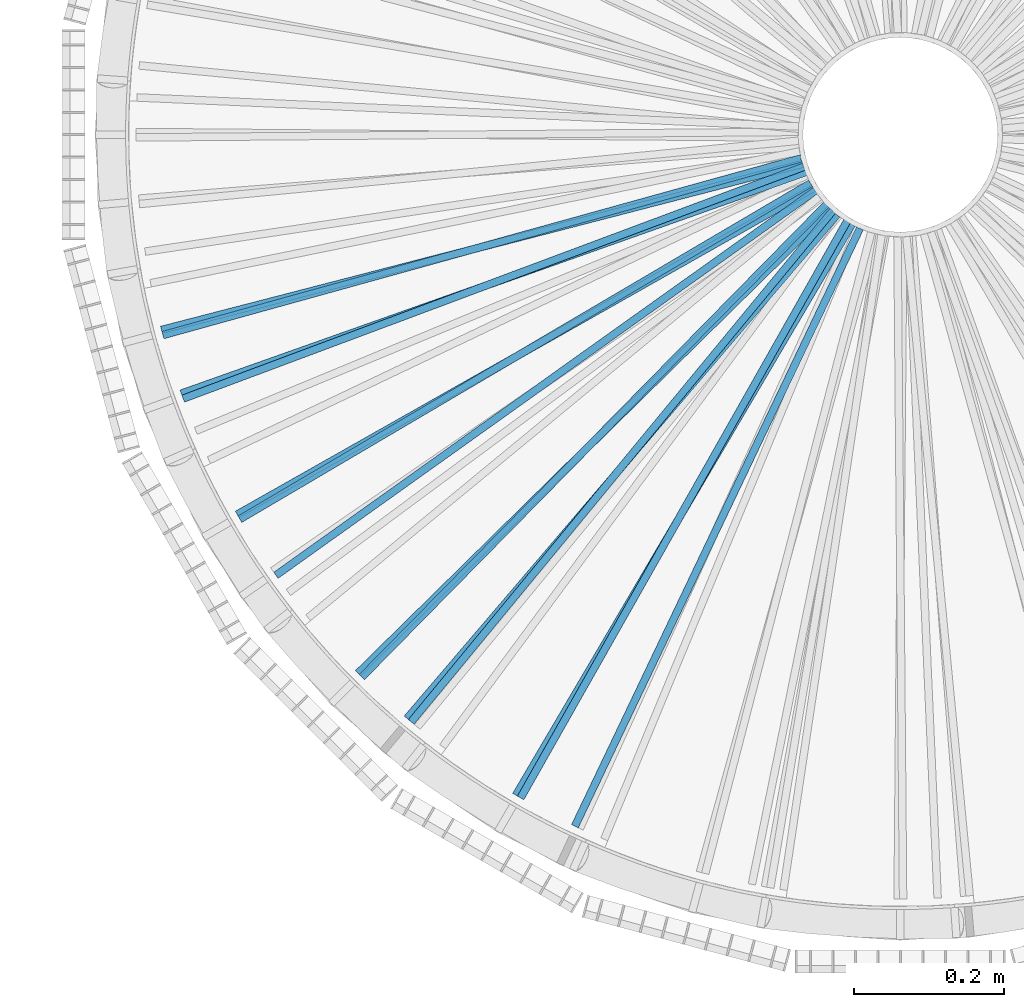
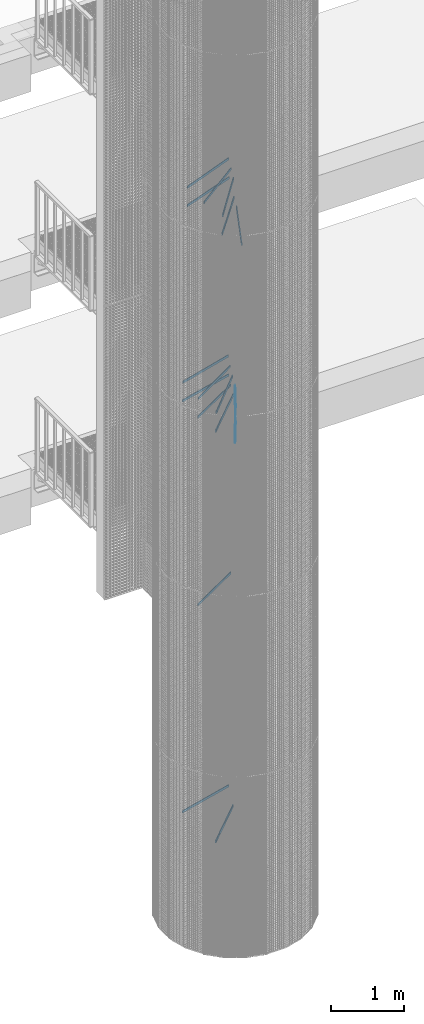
# One storey, part 389 of 1183: 17 beams, 3 elements without a shape of their own.
"""IFC2X3 building model written with IfcOpenShell, lengths in millimetres."""

import ifcopenshell
import ifcopenshell.guid

model = None  # the IFC model being written
_history = None  # IfcOwnerHistory: only IFC2X3 demands one
_inside = {}  # id of a spatial element -> (the spatial element, [elements in it])
_under = {}  # id of a project, library or spatial element -> (it, [spatial elements below it])
_declared = {}  # id of a project -> (the project, [libraries it declares])
_typed = {}  # id of a type object -> (the type object, [elements of that type])
_made_of = {}  # id of a material, layer set ... -> (it, [elements and type objects made of it])


def new_model(schema):
    """Start an empty IFC model of exactly this schema.

    Asked for "IFC4X3", IfcOpenShell would pick the latest addendum, in which some entities
    have other attributes; the version numbers below select the first issue.
    IFC2X3 requires an IfcOwnerHistory on every rooted entity: one is made here for all.
    """
    global model, _history
    if schema == "IFC4X3":
        model = ifcopenshell.file(schema_version=(4, 3, 0, 0))
    else:
        model = ifcopenshell.file(schema=schema)
    _inside.clear()
    _under.clear()
    _declared.clear()
    _typed.clear()
    _made_of.clear()
    _history = None
    if model.schema == "IFC2X3":
        org = make("IfcOrganization", Name="unknown")
        user = make(
            "IfcPersonAndOrganization",
            ThePerson=make("IfcPerson", FamilyName="unknown"),
            TheOrganization=org,
        )
        app = make(
            "IfcApplication",
            ApplicationDeveloper=org,
            Version="unknown",
            ApplicationFullName="unknown",
            ApplicationIdentifier="unknown",
        )
        _history = make(
            "IfcOwnerHistory",
            OwningUser=user,
            OwningApplication=app,
            ChangeAction="ADDED",
            CreationDate=0,
        )
    return model


def make(cls, **values):
    """One entity of the class cls with the attributes given. An attribute that is None is left unset."""
    return model.create_entity(
        cls, **{name: value for name, value in values.items() if value is not None}
    )


def rooted(cls, **values):
    """An entity with a GlobalId (a new one), such as an element, a storey or a relation."""
    return make(cls, GlobalId=ifcopenshell.guid.new(), OwnerHistory=_history, **values)


def si_unit(unit_type, name, prefix=None):
    """IfcSIUnit, for example si_unit("LENGTHUNIT", "METRE", prefix="MILLI")."""
    return make("IfcSIUnit", UnitType=unit_type, Prefix=prefix, Name=name)


def assignment(units):
    """IfcUnitAssignment: the units of a project."""
    return None if units is None else make("IfcUnitAssignment", Units=units)


def point(xyz):
    """IfcCartesianPoint."""
    return None if xyz is None else make("IfcCartesianPoint", Coordinates=xyz)


def direction(xyz):
    """IfcDirection."""
    return None if xyz is None else make("IfcDirection", DirectionRatios=xyz)


def frame(location, z_axis=None, x_axis=None):
    """IfcAxis2Placement3D, a coordinate frame: its origin and axes. An axis left out is left unset."""
    return make(
        "IfcAxis2Placement3D",
        Location=point(location),
        Axis=direction(z_axis),
        RefDirection=direction(x_axis),
    )


def frame_2d(location, x_axis=None):
    """IfcAxis2Placement2D, a coordinate frame in the plane: its origin and x axis."""
    return make(
        "IfcAxis2Placement2D", Location=point(location), RefDirection=direction(x_axis)
    )


def origin_with_axes():
    """The frame at (0, 0, 0) with the z axis (0, 0, 1) and the x axis (1, 0, 0) written out."""
    return frame((0.0, 0.0, 0.0), z_axis=(0.0, 0.0, 1.0), x_axis=(1.0, 0.0, 0.0))


def origin_2d_with_axis():
    """The frame at (0, 0) in the plane with the x axis (1, 0) written out."""
    return frame_2d((0.0, 0.0), x_axis=(1.0, 0.0))


def place(relative_to, where):
    """IfcLocalPlacement: puts the frame where relative to a parent placement (None: the world)."""
    return make(
        "IfcLocalPlacement", PlacementRelTo=relative_to, RelativePlacement=where
    )


def context(
    kind, dimensions, precision=None, world=None, true_north=None, identifier=None
):
    """IfcGeometricRepresentationContext, for example the 3D "Model" context."""
    return make(
        "IfcGeometricRepresentationContext",
        ContextIdentifier=identifier,
        ContextType=kind,
        CoordinateSpaceDimension=dimensions,
        Precision=precision,
        WorldCoordinateSystem=world,
        TrueNorth=true_north,
    )


def subcontext(parent, identifier, kind, view, scale=None):
    """IfcGeometricRepresentationSubContext, for example "Body" below "Model"."""
    return make(
        "IfcGeometricRepresentationSubContext",
        ContextIdentifier=identifier,
        ContextType=kind,
        ParentContext=parent,
        TargetScale=scale,
        TargetView=view,
    )


def project(units=None, contexts=None):
    """IfcProject with its units and contexts."""
    return rooted(
        "IfcProject",
        Name="project",
        RepresentationContexts=contexts,
        UnitsInContext=assignment(units),
    )


def spatial(cls, under=None, at=None, **own):
    """A site, building, storey or space (cls), placed at a placement, below another one or the project."""
    s = rooted(cls, ObjectPlacement=at, **own)
    if under is not None:
        _under.setdefault(under.id(), (under, []))[1].append(s)
    return s


def polyline(points):
    """IfcPolyline through the points."""
    return make("IfcPolyline", Points=[point(p) for p in points])


def profile(cls, at=None, kind="AREA", **sizes):
    """A parametric profile (cls). Its sizes go by their IFC names, for example OverallWidth=200.0."""
    return make(cls, ProfileType=kind, Position=at, **sizes)


def rectangle(**sizes):
    """IfcRectangleProfileDef."""
    return profile("IfcRectangleProfileDef", **sizes)


def outline(outer, holes=None, kind="AREA"):
    """IfcArbitraryClosedProfileDef: a profile drawn as a closed curve; with holes, ...WithVoids."""
    if holes is None:
        return make("IfcArbitraryClosedProfileDef", ProfileType=kind, OuterCurve=outer)
    return make(
        "IfcArbitraryProfileDefWithVoids",
        ProfileType=kind,
        OuterCurve=outer,
        InnerCurves=holes,
    )


def extrude(swept, where, along, depth):
    """IfcExtrudedAreaSolid: the profile swept, set in the frame where, extruded along a direction by depth."""
    return make(
        "IfcExtrudedAreaSolid",
        SweptArea=swept,
        Position=where,
        ExtrudedDirection=direction(along),
        Depth=depth,
    )


def boolean(op, a, b):
    """IfcBooleanResult of two solids."""
    return make("IfcBooleanResult", Operator=op, FirstOperand=a, SecondOperand=b)


def shape(context_of_items, identifier, shape_type, items):
    """IfcShapeRepresentation: the items that make up one representation, for example the "Body"."""
    return make(
        "IfcShapeRepresentation",
        ContextOfItems=context_of_items,
        RepresentationIdentifier=identifier,
        RepresentationType=shape_type,
        Items=items,
    )


def material(Name=None, Category=None):
    """IfcMaterial."""
    return make("IfcMaterial", Name=Name, Category=Category)


def made_of(thing, what):
    """Note that an element or type object is made of a material, layer set ...; save() writes the relation."""
    if what is not None:
        _made_of.setdefault(what.id(), (what, []))[1].append(thing)
    return thing


def type_object(cls, material=None, **own):
    """A type object (cls), such as IfcWallType, which elements share."""
    return made_of(rooted(cls, **own), material)


def element(
    cls,
    number,
    at=None,
    inside=None,
    cuts=None,
    type_object=None,
    material=None,
    context=None,
    identifier="Body",
    shape_type=None,
    held_by="IfcProductDefinitionShape",
    body=None,
    shapes=None,
    **own,
):
    """One element of the class cls, such as IfcWall. Its Tag is "e" and its number.

    at: its placement. inside: the storey or other place that contains it. cuts: it is an
    opening in that element (IfcRelVoidsElement). A single representation is given by context,
    identifier, shape_type and body (its items); several are given by shapes. held_by: the class
    of the entity that holds the representations. save() writes the other relations.
    """
    e = rooted(cls, Tag="e%d" % number, ObjectPlacement=at, **own)
    if body is not None:
        shapes = [shape(context, identifier, shape_type, body)]
    if shapes is not None:
        e.Representation = make(held_by, Representations=shapes)
    if inside is not None:
        _inside.setdefault(inside.id(), (inside, []))[1].append(e)
    if cuts is not None:
        rooted(
            "IfcRelVoidsElement", RelatingBuildingElement=cuts, RelatedOpeningElement=e
        )
    if type_object is not None:
        _typed.setdefault(type_object.id(), (type_object, []))[1].append(e)
    return made_of(e, material)


def aggregate(whole, parts):
    """IfcRelAggregates: a whole, such as a stair, and the parts it consists of."""
    return rooted("IfcRelAggregates", RelatingObject=whole, RelatedObjects=parts)


def save(model, path):
    """Write the relations noted so far, then the file.

    IfcRelAggregates (storeys below a building ...), IfcRelContainedInSpatialStructure (elements
    in a storey), IfcRelDefinesByType, IfcRelAssociatesMaterial and IfcRelDeclares: one each for
    every whole, place, type object, material and project.
    """
    for whole, parts in _under.values():
        aggregate(whole, parts)
    for where, things in _inside.values():
        rooted(
            "IfcRelContainedInSpatialStructure",
            RelatedElements=things,
            RelatingStructure=where,
        )
    for kind, things in _typed.values():
        rooted("IfcRelDefinesByType", RelatedObjects=things, RelatingType=kind)
    for what, things in _made_of.values():
        rooted("IfcRelAssociatesMaterial", RelatedObjects=things, RelatingMaterial=what)
    for by, libraries in _declared.values():
        rooted("IfcRelDeclares", RelatingContext=by, RelatedDefinitions=libraries)
    model.write(path)


model = new_model("IFC2X3")

# Units and contexts
model_context = context("Model", 3, precision=1e-05, world=origin_with_axes())
body_context = subcontext(model_context, "Body", "Model", "MODEL_VIEW")
ifc_project = project(units=[si_unit("LENGTHUNIT", "METRE", prefix="MILLI"), si_unit("AREAUNIT", "SQUARE_METRE"), si_unit("VOLUMEUNIT", "CUBIC_METRE"), si_unit("MASSUNIT", "GRAM", prefix="KILO"), si_unit("TIMEUNIT", "SECOND"), si_unit("PLANEANGLEUNIT", "RADIAN"), si_unit("SOLIDANGLEUNIT", "STERADIAN"), si_unit("THERMODYNAMICTEMPERATUREUNIT", "DEGREE_CELSIUS"), si_unit("LUMINOUSINTENSITYUNIT", "LUMEN")], contexts=[model_context])

# Site, building, storey
site_placement = place(None, origin_with_axes())
site = spatial("IfcSite", under=ifc_project, at=site_placement, Name="Undefined", CompositionType="ELEMENT")
building_placement = place(site_placement, origin_with_axes())
building = spatial("IfcBuilding", under=site, at=building_placement, Name="Undefined", CompositionType="ELEMENT")
storey_placement = place(building_placement, origin_with_axes())
storey = spatial("IfcBuildingStorey", under=building, at=storey_placement, Name="Undefined", CompositionType="ELEMENT", Elevation=0.0)

# Assembly, beams
assembly_1_placement = place(storey_placement, origin_with_axes())
assembly_1 = element("IfcElementAssembly", 1, at=assembly_1_placement, inside=storey, Name="POTEAU", AssemblyPlace="NOTDEFINED", PredefinedType="NOTDEFINED")
ifc_material = material(Name="STEEL/S235JR")
beam_type = type_object("IfcBeamType", Name="PL10*40", PredefinedType="NOTDEFINED")
beam_1_placement = place(assembly_1_placement, frame((21528.7730044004, -44.6375540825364, 12413.8), z_axis=(0.0, 0.0, 1.0), x_axis=(-0.814264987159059, -0.580493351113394, 0.0)))
beam_1 = element("IfcBeam", 2, at=beam_1_placement, type_object=beam_type, material=ifc_material, Name="RAIDISSEUR", context=body_context, shape_type="CSG", body=[
    boolean("DIFFERENCE", extrude(rectangle(XDim=10.0, YDim=40.0, at=origin_2d_with_axis()), frame((935.982964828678, -2.59787459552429e-14, -3.63797880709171e-12), z_axis=(-1.0, 0.0, 0.0), x_axis=(0.0, -1.0, 0.0)), (0.0, 0.0, 1.0), 935.98), extrude(outline(polyline([(0.0, 0.0), (30.5663019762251, -4.91127138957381e-11), (60.366242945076, 6.80164206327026), (87.9055294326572, 20.0638634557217), (111.803226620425, 39.1216410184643), (130.861004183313, 63.0193382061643), (144.123225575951, 90.5586246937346), (150.9248676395, 120.358565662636), (150.924867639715, 150.924867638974), (144.123225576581, 180.724808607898), (130.86100418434, 208.264095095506), (111.803226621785, 232.161792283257), (87.9055294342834, 251.219569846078), (60.3662429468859, 264.481791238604), (30.5663019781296, 271.283433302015), (1.90266291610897e-09, 271.28343330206), (-29.7999409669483, 264.481791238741), (-57.3392274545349, 251.219569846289), (-81.2369246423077, 232.161792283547), (-100.294702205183, 208.26409509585), (-113.556923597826, 180.724808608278), (-120.35856566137, 150.92486763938), (-120.358565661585, 120.358565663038), (-113.556923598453, 90.5586246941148), (-100.294702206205, 63.0193382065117), (-81.2369246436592, 39.1216410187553), (-57.3392274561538, 20.0638634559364), (-29.7999409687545, 6.80164206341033), (0.0, 0.0)])), frame((52.1670024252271, 15.744698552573, -22.4999999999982), z_axis=(0.0, 0.0, 1.0), x_axis=(-0.189837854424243, 0.98181545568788, 0.0)), (0.0, 0.0, 1.0), 45.0)),
])
beam_2_placement = place(assembly_1_placement, frame((21519.6469562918, -24.6816633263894, 12570.32), z_axis=(0.0, 0.0, 1.0), x_axis=(-0.936762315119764, -0.349966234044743, 0.0)))
beam_2 = element("IfcBeam", 3, at=beam_2_placement, type_object=beam_type, material=ifc_material, Name="RAIDISSEUR", context=body_context, shape_type="CSG", body=[
    boolean("DIFFERENCE", extrude(rectangle(XDim=10.0, YDim=40.0, at=origin_2d_with_axis()), frame((935.982964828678, -2.59787459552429e-14, -3.63797880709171e-12), z_axis=(-1.0, 0.0, 0.0), x_axis=(0.0, -1.0, 0.0)), (0.0, 0.0, 1.0), 935.98), extrude(outline(polyline([(0.0, 0.0), (30.5663019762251, -4.91127138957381e-11), (60.366242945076, 6.80164206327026), (87.9055294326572, 20.0638634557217), (111.803226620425, 39.1216410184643), (130.861004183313, 63.0193382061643), (144.123225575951, 90.5586246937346), (150.9248676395, 120.358565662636), (150.924867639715, 150.924867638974), (144.123225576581, 180.724808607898), (130.86100418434, 208.264095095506), (111.803226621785, 232.161792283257), (87.9055294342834, 251.219569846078), (60.3662429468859, 264.481791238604), (30.5663019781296, 271.283433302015), (1.90266291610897e-09, 271.28343330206), (-29.7999409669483, 264.481791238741), (-57.3392274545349, 251.219569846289), (-81.2369246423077, 232.161792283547), (-100.294702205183, 208.26409509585), (-113.556923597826, 180.724808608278), (-120.35856566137, 150.92486763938), (-120.358565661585, 120.358565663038), (-113.556923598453, 90.5586246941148), (-100.294702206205, 63.0193382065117), (-81.2369246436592, 39.1216410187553), (-57.3392274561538, 20.0638634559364), (-29.7999409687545, 6.80164206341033), (0.0, 0.0)])), frame((44.7493770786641, 50.5977597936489, -22.4999999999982), z_axis=(0.0, 0.0, 1.0), x_axis=(-0.437481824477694, 0.899227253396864, 0.0)), (0.0, 0.0, 1.0), 45.0)),
])
beam_3_placement = place(assembly_1_placement, frame((21542.753054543, -61.5514692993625, 12257.28), z_axis=(0.0, 0.0, 1.0), x_axis=(-0.636276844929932, -0.771460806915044, 0.0)))
beam_3 = element("IfcBeam", 4, at=beam_3_placement, type_object=beam_type, material=ifc_material, Name="RAIDISSEUR", context=body_context, shape_type="CSG", body=[
    boolean("DIFFERENCE", extrude(rectangle(XDim=10.0, YDim=40.0, at=origin_2d_with_axis()), frame((935.982964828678, -2.59787459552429e-14, -3.63797880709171e-12), z_axis=(-1.0, 0.0, 0.0), x_axis=(0.0, -1.0, 0.0)), (0.0, 0.0, 1.0), 935.98), extrude(outline(polyline([(0.0, 0.0), (30.5663019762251, -4.91127138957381e-11), (60.366242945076, 6.80164206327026), (87.9055294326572, 20.0638634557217), (111.803226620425, 39.1216410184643), (130.861004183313, 63.0193382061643), (144.123225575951, 90.5586246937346), (150.9248676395, 120.358565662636), (150.924867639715, 150.924867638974), (144.123225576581, 180.724808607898), (130.86100418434, 208.264095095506), (111.803226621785, 232.161792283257), (87.9055294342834, 251.219569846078), (60.3662429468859, 264.481791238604), (30.5663019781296, 271.283433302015), (1.90266291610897e-09, 271.28343330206), (-29.7999409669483, 264.481791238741), (-57.3392274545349, 251.219569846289), (-81.2369246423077, 232.161792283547), (-100.294702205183, 208.26409509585), (-113.556923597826, 180.724808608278), (-120.35856566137, 150.92486763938), (-120.358565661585, 120.358565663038), (-113.556923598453, 90.5586246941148), (-100.294702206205, 63.0193382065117), (-81.2369246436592, 39.1216410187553), (-57.3392274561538, 20.0638634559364), (-29.7999409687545, 6.80164206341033), (0.0, 0.0)])), frame((50.3112422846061, -19.8405962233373, -22.5), z_axis=(0.0, 0.0, 1.0), x_axis=(0.0707432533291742, 0.997494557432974, 0.0)), (0.0, 0.0, 1.0), 45.0)),
])
beam_4_placement = place(assembly_1_placement, frame((21568.4090286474, -77.8961274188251, 11787.72), z_axis=(0.0, 0.0, 1.0), x_axis=(-0.430278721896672, -0.902696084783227, 0.0)))
beam_4 = element("IfcBeam", 5, at=beam_4_placement, type_object=beam_type, material=ifc_material, Name="RAIDISSEUR", context=body_context, shape_type="CSG", body=[
    boolean("DIFFERENCE", extrude(rectangle(XDim=10.0, YDim=40.0, at=origin_2d_with_axis()), frame((935.982964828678, -2.59787459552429e-14, -3.63797880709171e-12), z_axis=(-1.0, 0.0, 0.0), x_axis=(0.0, -1.0, 0.0)), (0.0, 0.0, 1.0), 935.98), extrude(outline(polyline([(0.0, 0.0), (30.5663019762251, -4.91127138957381e-11), (60.366242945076, 6.80164206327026), (87.9055294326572, 20.0638634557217), (111.803226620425, 39.1216410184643), (130.861004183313, 63.0193382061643), (144.123225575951, 90.5586246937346), (150.9248676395, 120.358565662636), (150.924867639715, 150.924867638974), (144.123225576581, 180.724808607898), (130.86100418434, 208.264095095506), (111.803226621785, 232.161792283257), (87.9055294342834, 251.219569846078), (60.3662429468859, 264.481791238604), (30.5663019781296, 271.283433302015), (1.90266291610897e-09, 271.28343330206), (-29.7999409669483, 264.481791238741), (-57.3392274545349, 251.219569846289), (-81.2369246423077, 232.161792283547), (-100.294702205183, 208.26409509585), (-113.556923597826, 180.724808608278), (-120.35856566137, 150.92486763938), (-120.358565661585, 120.358565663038), (-113.556923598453, 90.5586246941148), (-100.294702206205, 63.0193382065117), (-81.2369246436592, 39.1216410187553), (-57.3392274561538, 20.0638634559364), (-29.7999409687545, 6.80164206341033), (0.0, 0.0)])), frame((40.2856849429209, -61.6376019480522, -22.5), z_axis=(0.0, 0.0, 1.0), x_axis=(0.310447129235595, 0.950590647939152, 0.0)), (0.0, 0.0, 1.0), 45.0)),
])
beam_5_placement = place(assembly_1_placement, frame((21549.3244635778, -67.0655362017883, 11944.24), z_axis=(0.0, 0.0, 1.0), x_axis=(-0.649252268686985, -0.760573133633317, 0.0)))
beam_5 = element("IfcBeam", 6, at=beam_5_placement, type_object=beam_type, material=ifc_material, Name="RAIDISSEUR", context=body_context, shape_type="CSG", body=[
    boolean("DIFFERENCE", extrude(rectangle(XDim=10.0, YDim=40.0, at=origin_2d_with_axis()), frame((935.982964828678, -2.59787459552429e-14, -3.63797880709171e-12), z_axis=(-1.0, 0.0, 0.0), x_axis=(0.0, -1.0, 0.0)), (0.0, 0.0, 1.0), 935.98), extrude(outline(polyline([(0.0, 0.0), (30.5663019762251, -4.91127138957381e-11), (60.366242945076, 6.80164206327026), (87.9055294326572, 20.0638634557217), (111.803226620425, 39.1216410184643), (130.861004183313, 63.0193382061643), (144.123225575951, 90.5586246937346), (150.9248676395, 120.358565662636), (150.924867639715, 150.924867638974), (144.123225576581, 180.724808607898), (130.86100418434, 208.264095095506), (111.803226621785, 232.161792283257), (87.9055294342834, 251.219569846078), (60.3662429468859, 264.481791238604), (30.5663019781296, 271.283433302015), (1.90266291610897e-09, 271.28343330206), (-29.7999409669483, 264.481791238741), (-57.3392274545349, 251.219569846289), (-81.2369246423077, 232.161792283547), (-100.294702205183, 208.26409509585), (-113.556923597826, 180.724808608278), (-120.35856566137, 150.92486763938), (-120.358565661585, 120.358565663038), (-113.556923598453, 90.5586246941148), (-100.294702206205, 63.0193382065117), (-81.2369246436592, 39.1216410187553), (-57.3392274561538, 20.0638634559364), (-29.7999409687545, 6.80164206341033), (0.0, 0.0)])), frame((50.712728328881, -27.5636557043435, -22.5000000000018), z_axis=(0.0, 0.0, 1.0), x_axis=(0.0538379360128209, 0.998549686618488, 0.0)), (0.0, 0.0, 1.0), 45.0)),
])
beam_6_placement = place(assembly_1_placement, frame((21522.5809300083, -32.7426898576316, 12257.28), z_axis=(0.0, 0.0, 1.0), x_axis=(-0.942555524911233, -0.33404952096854, 0.0)))
beam_6 = element("IfcBeam", 7, at=beam_6_placement, type_object=beam_type, material=ifc_material, Name="RAIDISSEUR", context=body_context, shape_type="CSG", body=[
    boolean("DIFFERENCE", extrude(rectangle(XDim=10.0, YDim=40.0, at=origin_2d_with_axis()), frame((935.982964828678, -2.59787459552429e-14, -3.63797880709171e-12), z_axis=(-1.0, 0.0, 0.0), x_axis=(0.0, -1.0, 0.0)), (0.0, 0.0, 1.0), 935.98), extrude(outline(polyline([(0.0, 0.0), (30.5663019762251, -4.91127138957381e-11), (60.366242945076, 6.80164206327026), (87.9055294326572, 20.0638634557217), (111.803226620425, 39.1216410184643), (130.861004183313, 63.0193382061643), (144.123225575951, 90.5586246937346), (150.9248676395, 120.358565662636), (150.924867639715, 150.924867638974), (144.123225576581, 180.724808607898), (130.86100418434, 208.264095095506), (111.803226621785, 232.161792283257), (87.9055294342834, 251.219569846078), (60.3662429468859, 264.481791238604), (30.5663019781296, 271.283433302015), (1.90266291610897e-09, 271.28343330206), (-29.7999409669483, 264.481791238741), (-57.3392274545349, 251.219569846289), (-81.2369246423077, 232.161792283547), (-100.294702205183, 208.26409509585), (-113.556923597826, 180.724808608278), (-120.35856566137, 150.92486763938), (-120.358565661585, 120.358565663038), (-113.556923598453, 90.5586246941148), (-100.294702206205, 63.0193382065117), (-81.2369246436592, 39.1216410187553), (-57.3392274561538, 20.0638634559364), (-29.7999409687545, 6.80164206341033), (0.0, 0.0)])), frame((43.9586039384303, 42.7703911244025, -22.5000000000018), z_axis=(0.0, 0.0, 1.0), x_axis=(-0.452649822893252, 0.891688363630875, 0.0)), (0.0, 0.0, 1.0), 45.0)),
])
aggregate(assembly_1, [beam_1, beam_2, beam_3, beam_4, beam_5, beam_6])

assembly_2_placement = place(storey_placement, origin_with_axes())
assembly_2 = element("IfcElementAssembly", 8, at=assembly_2_placement, inside=storey, Name="POTEAU", AssemblyPlace="NOTDEFINED", PredefinedType="NOTDEFINED")
beam_7_placement = place(assembly_2_placement, frame((21561.7401469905, -74.8463745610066, 8500.76000000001), z_axis=(0.0, 0.0, 1.0), x_axis=(-0.50731652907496, -0.861759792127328, 0.0)))
beam_7 = element("IfcBeam", 9, at=beam_7_placement, type_object=beam_type, material=ifc_material, Name="RAIDISSEUR", context=body_context, shape_type="CSG", body=[
    boolean("DIFFERENCE", extrude(rectangle(XDim=10.0, YDim=40.0, at=origin_2d_with_axis()), frame((935.982964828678, -2.59787459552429e-14, -3.63797880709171e-12), z_axis=(-1.0, 0.0, 0.0), x_axis=(0.0, -1.0, 0.0)), (0.0, 0.0, 1.0), 935.98), extrude(outline(polyline([(0.0, 0.0), (30.5663019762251, -4.91127138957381e-11), (60.366242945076, 6.80164206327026), (87.9055294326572, 20.0638634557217), (111.803226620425, 39.1216410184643), (130.861004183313, 63.0193382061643), (144.123225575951, 90.5586246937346), (150.9248676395, 120.358565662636), (150.924867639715, 150.924867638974), (144.123225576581, 180.724808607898), (130.86100418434, 208.264095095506), (111.803226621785, 232.161792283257), (87.9055294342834, 251.219569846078), (60.3662429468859, 264.481791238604), (30.5663019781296, 271.283433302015), (1.90266291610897e-09, 271.28343330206), (-29.7999409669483, 264.481791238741), (-57.3392274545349, 251.219569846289), (-81.2369246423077, 232.161792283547), (-100.294702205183, 208.26409509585), (-113.556923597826, 180.724808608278), (-120.35856566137, 150.92486763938), (-120.358565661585, 120.358565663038), (-113.556923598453, 90.5586246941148), (-100.294702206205, 63.0193382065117), (-81.2369246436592, 39.1216410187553), (-57.3392274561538, 20.0638634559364), (-29.7999409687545, 6.80164206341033), (0.0, 0.0)])), frame((44.7493772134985, -50.597759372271, -22.5), z_axis=(0.0, 0.0, 1.0), x_axis=(0.226416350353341, 0.974030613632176, 0.0)), (0.0, 0.0, 1.0), 45.0)),
])
beam_8_placement = place(assembly_2_placement, frame((21520.0218194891, -25.8705774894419, 8970.32000000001), z_axis=(0.0, 0.0, 1.0), x_axis=(-0.968083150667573, -0.250629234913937, 0.0)))
beam_8 = element("IfcBeam", 10, at=beam_8_placement, type_object=beam_type, material=ifc_material, Name="RAIDISSEUR", context=body_context, shape_type="CSG", body=[
    boolean("DIFFERENCE", extrude(rectangle(XDim=10.0, YDim=40.0, at=origin_2d_with_axis()), frame((935.982964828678, -2.59787459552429e-14, -3.63797880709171e-12), z_axis=(-1.0, 0.0, 0.0), x_axis=(0.0, -1.0, 0.0)), (0.0, 0.0, 1.0), 935.98), extrude(outline(polyline([(0.0, 0.0), (30.5663019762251, -4.91127138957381e-11), (60.366242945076, 6.80164206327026), (87.9055294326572, 20.0638634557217), (111.803226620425, 39.1216410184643), (130.861004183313, 63.0193382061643), (144.123225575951, 90.5586246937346), (150.9248676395, 120.358565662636), (150.924867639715, 150.924867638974), (144.123225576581, 180.724808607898), (130.86100418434, 208.264095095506), (111.803226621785, 232.161792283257), (87.9055294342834, 251.219569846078), (60.3662429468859, 264.481791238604), (30.5663019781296, 271.283433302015), (1.90266291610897e-09, 271.28343330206), (-29.7999409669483, 264.481791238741), (-57.3392274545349, 251.219569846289), (-81.2369246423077, 232.161792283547), (-100.294702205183, 208.26409509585), (-113.556923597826, 180.724808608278), (-120.35856566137, 150.92486763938), (-120.358565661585, 120.358565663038), (-113.556923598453, 90.5586246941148), (-100.294702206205, 63.0193382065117), (-81.2369246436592, 39.1216410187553), (-57.3392274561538, 20.0638634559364), (-29.7999409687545, 6.80164206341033), (0.0, 0.0)])), frame((39.3085634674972, 53.7330457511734, -22.5), z_axis=(0.0, 0.0, 1.0), x_axis=(-0.528643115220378, 0.848844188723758, 0.0)), (0.0, 0.0, 1.0), 45.0)),
])
beam_9_placement = place(assembly_2_placement, frame((21525.153625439, -38.2598530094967, 9126.84000000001), z_axis=(0.0, 0.0, 1.0), x_axis=(-0.861759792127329, -0.507316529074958, 0.0)))
beam_9 = element("IfcBeam", 11, at=beam_9_placement, type_object=beam_type, material=ifc_material, Name="RAIDISSEUR", context=body_context, shape_type="CSG", body=[
    boolean("DIFFERENCE", extrude(rectangle(XDim=10.0, YDim=40.0, at=origin_2d_with_axis()), frame((935.982964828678, -2.59787459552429e-14, -3.63797880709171e-12), z_axis=(-1.0, 0.0, 0.0), x_axis=(0.0, -1.0, 0.0)), (0.0, 0.0, 1.0), 935.98), extrude(outline(polyline([(0.0, 0.0), (30.5663019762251, -4.91127138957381e-11), (60.366242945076, 6.80164206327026), (87.9055294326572, 20.0638634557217), (111.803226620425, 39.1216410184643), (130.861004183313, 63.0193382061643), (144.123225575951, 90.5586246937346), (150.9248676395, 120.358565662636), (150.924867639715, 150.924867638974), (144.123225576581, 180.724808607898), (130.86100418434, 208.264095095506), (111.803226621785, 232.161792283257), (87.9055294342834, 251.219569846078), (60.3662429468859, 264.481791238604), (30.5663019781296, 271.283433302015), (1.90266291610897e-09, 271.28343330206), (-29.7999409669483, 264.481791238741), (-57.3392274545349, 251.219569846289), (-81.2369246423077, 232.161792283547), (-100.294702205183, 208.26409509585), (-113.556923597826, 180.724808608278), (-120.35856566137, 150.92486763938), (-120.358565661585, 120.358565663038), (-113.556923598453, 90.5586246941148), (-100.294702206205, 63.0193382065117), (-81.2369246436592, 39.1216410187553), (-57.3392274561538, 20.0638634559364), (-29.7999409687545, 6.80164206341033), (0.0, 0.0)])), frame((50.7127282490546, 27.5636561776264, -22.5), z_axis=(0.0, 0.0, 1.0), x_axis=(-0.274686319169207, 0.961533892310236, 0.0)), (0.0, 0.0, 1.0), 45.0)),
])
beam_10_placement = place(assembly_2_placement, frame((21537.6063324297, -56.3278473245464, 8970.32000000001), z_axis=(0.0, 0.0, 1.0), x_axis=(-0.701092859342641, -0.713069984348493, 0.0)))
beam_10 = element("IfcBeam", 12, at=beam_10_placement, type_object=beam_type, material=ifc_material, Name="RAIDISSEUR", context=body_context, shape_type="CSG", body=[
    boolean("DIFFERENCE", extrude(rectangle(XDim=10.0, YDim=40.0, at=origin_2d_with_axis()), frame((935.982964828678, -2.59787459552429e-14, -3.63797880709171e-12), z_axis=(-1.0, 0.0, 0.0), x_axis=(0.0, -1.0, 0.0)), (0.0, 0.0, 1.0), 935.98), extrude(outline(polyline([(0.0, 0.0), (30.5663019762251, -4.91127138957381e-11), (60.366242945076, 6.80164206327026), (87.9055294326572, 20.0638634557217), (111.803226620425, 39.1216410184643), (130.861004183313, 63.0193382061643), (144.123225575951, 90.5586246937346), (150.9248676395, 120.358565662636), (150.924867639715, 150.924867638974), (144.123225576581, 180.724808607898), (130.86100418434, 208.264095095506), (111.803226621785, 232.161792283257), (87.9055294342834, 251.219569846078), (60.3662429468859, 264.481791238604), (30.5663019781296, 271.283433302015), (1.90266291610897e-09, 271.28343330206), (-29.7999409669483, 264.481791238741), (-57.3392274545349, 251.219569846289), (-81.2369246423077, 232.161792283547), (-100.294702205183, 208.26409509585), (-113.556923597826, 180.724808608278), (-120.35856566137, 150.92486763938), (-120.358565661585, 120.358565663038), (-113.556923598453, 90.5586246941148), (-100.294702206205, 63.0193382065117), (-81.2369246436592, 39.1216410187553), (-57.3392274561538, 20.0638634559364), (-29.7999409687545, 6.80164206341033), (0.0, 0.0)])), frame((51.9654926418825, -8.04796593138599, -22.4999999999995), z_axis=(0.0, 0.0, 1.0), x_axis=(-0.0164633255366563, 0.999864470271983, 0.0)), (0.0, 0.0, 1.0), 45.0)),
])
beam_11_placement = place(assembly_2_placement, frame((21529.442808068, -45.6889352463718, 8813.80000000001), z_axis=(0.0, 0.0, 1.0), x_axis=(-0.870228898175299, -0.492647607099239, 0.0)))
beam_11 = element("IfcBeam", 13, at=beam_11_placement, type_object=beam_type, material=ifc_material, Name="RAIDISSEUR", context=body_context, shape_type="CSG", body=[
    boolean("DIFFERENCE", extrude(rectangle(XDim=10.0, YDim=40.0, at=origin_2d_with_axis()), frame((935.982964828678, -2.59787459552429e-14, -3.63797880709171e-12), z_axis=(-1.0, 0.0, 0.0), x_axis=(0.0, -1.0, 0.0)), (0.0, 0.0, 1.0), 935.98), extrude(outline(polyline([(0.0, 0.0), (30.5663019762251, -4.91127138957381e-11), (60.366242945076, 6.80164206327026), (87.9055294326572, 20.0638634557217), (111.803226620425, 39.1216410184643), (130.861004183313, 63.0193382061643), (144.123225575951, 90.5586246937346), (150.9248676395, 120.358565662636), (150.924867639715, 150.924867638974), (144.123225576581, 180.724808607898), (130.86100418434, 208.264095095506), (111.803226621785, 232.161792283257), (87.9055294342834, 251.219569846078), (60.3662429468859, 264.481791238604), (30.5663019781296, 271.283433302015), (1.90266291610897e-09, 271.28343330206), (-29.7999409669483, 264.481791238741), (-57.3392274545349, 251.219569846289), (-81.2369246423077, 232.161792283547), (-100.294702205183, 208.26409509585), (-113.556923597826, 180.724808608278), (-120.35856566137, 150.92486763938), (-120.358565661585, 120.358565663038), (-113.556923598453, 90.5586246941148), (-100.294702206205, 63.0193382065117), (-81.2369246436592, 39.1216410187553), (-57.3392274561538, 20.0638634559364), (-29.7999409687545, 6.80164206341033), (0.0, 0.0)])), frame((50.3112422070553, 19.8405966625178, -22.5), z_axis=(0.0, 0.0, 1.0), x_axis=(-0.290932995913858, 0.956743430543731, 0.0)), (0.0, 0.0, 1.0), 45.0)),
])
beam_12_placement = place(assembly_2_placement, frame((21517.8015751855, -17.584512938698, 9283.36000000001), z_axis=(0.0, 0.0, 1.0), x_axis=(-0.963699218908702, -0.266990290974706, 0.0)))
beam_12 = element("IfcBeam", 14, at=beam_12_placement, type_object=beam_type, material=ifc_material, Name="RAIDISSEUR", context=body_context, shape_type="CSG", body=[
    boolean("DIFFERENCE", extrude(rectangle(XDim=10.0, YDim=40.0, at=origin_2d_with_axis()), frame((935.982964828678, -2.59787459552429e-14, -3.63797880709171e-12), z_axis=(-1.0, 0.0, 0.0), x_axis=(0.0, -1.0, 0.0)), (0.0, 0.0, 1.0), 935.98), extrude(outline(polyline([(0.0, 0.0), (30.5663019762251, -4.91127138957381e-11), (60.366242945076, 6.80164206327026), (87.9055294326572, 20.0638634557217), (111.803226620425, 39.1216410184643), (130.861004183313, 63.0193382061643), (144.123225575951, 90.5586246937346), (150.9248676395, 120.358565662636), (150.924867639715, 150.924867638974), (144.123225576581, 180.724808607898), (130.86100418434, 208.264095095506), (111.803226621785, 232.161792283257), (87.9055294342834, 251.219569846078), (60.3662429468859, 264.481791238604), (30.5663019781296, 271.283433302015), (1.90266291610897e-09, 271.28343330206), (-29.7999409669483, 264.481791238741), (-57.3392274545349, 251.219569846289), (-81.2369246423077, 232.161792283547), (-100.294702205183, 208.26409509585), (-113.556923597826, 180.724808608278), (-120.35856566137, 150.92486763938), (-120.358565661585, 120.358565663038), (-113.556923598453, 90.5586246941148), (-100.294702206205, 63.0193382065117), (-81.2369246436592, 39.1216410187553), (-57.3392274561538, 20.0638634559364), (-29.7999409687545, 6.80164206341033), (0.0, 0.0)])), frame((40.2856847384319, 61.6376023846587, -22.4999999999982), z_axis=(0.0, 0.0, 1.0), x_axis=(-0.514189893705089, 0.857676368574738, 0.0)), (0.0, 0.0, 1.0), 45.0)),
])
beam_13_placement = place(assembly_2_placement, frame((21543.6721526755, -62.3936675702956, 8657.28000000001), z_axis=(0.0, 0.0, 1.0), x_axis=(-0.713069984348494, -0.70109285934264, 0.0)))
beam_13 = element("IfcBeam", 15, at=beam_13_placement, type_object=beam_type, material=ifc_material, Name="RAIDISSEUR", context=body_context, shape_type="CSG", body=[
    boolean("DIFFERENCE", extrude(rectangle(XDim=10.0, YDim=40.0, at=origin_2d_with_axis()), frame((935.982964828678, -2.59787459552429e-14, -3.63797880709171e-12), z_axis=(-1.0, 0.0, 0.0), x_axis=(0.0, -1.0, 0.0)), (0.0, 0.0, 1.0), 935.98), extrude(outline(polyline([(0.0, 0.0), (30.5663019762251, -4.91127138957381e-11), (60.366242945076, 6.80164206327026), (87.9055294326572, 20.0638634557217), (111.803226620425, 39.1216410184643), (130.861004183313, 63.0193382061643), (144.123225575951, 90.5586246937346), (150.9248676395, 120.358565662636), (150.924867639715, 150.924867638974), (144.123225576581, 180.724808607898), (130.86100418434, 208.264095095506), (111.803226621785, 232.161792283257), (87.9055294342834, 251.219569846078), (60.3662429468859, 264.481791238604), (30.5663019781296, 271.283433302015), (1.90266291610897e-09, 271.28343330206), (-29.7999409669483, 264.481791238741), (-57.3392274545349, 251.219569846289), (-81.2369246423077, 232.161792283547), (-100.294702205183, 208.26409509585), (-113.556923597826, 180.724808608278), (-120.35856566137, 150.92486763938), (-120.358565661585, 120.358565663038), (-113.556923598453, 90.5586246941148), (-100.294702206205, 63.0193382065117), (-81.2369246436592, 39.1216410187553), (-57.3392274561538, 20.0638634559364), (-29.7999409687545, 6.80164206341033), (0.0, 0.0)])), frame((52.1670024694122, -15.7446980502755, -22.5), z_axis=(0.0, 0.0, 1.0), x_axis=(-0.0333962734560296, 0.999442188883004, 0.0)), (0.0, 0.0, 1.0), 45.0)),
])
beam_14_placement = place(assembly_2_placement, frame((21554.3110647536, -70.5571919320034, 8813.80000000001), z_axis=(0.0, 0.0, 1.0), x_axis=(-0.492647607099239, -0.870228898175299, 0.0)))
beam_14 = element("IfcBeam", 16, at=beam_14_placement, type_object=beam_type, material=ifc_material, Name="RAIDISSEUR", context=body_context, shape_type="CSG", body=[
    boolean("DIFFERENCE", extrude(rectangle(XDim=10.0, YDim=40.0, at=origin_2d_with_axis()), frame((935.982964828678, -2.59787459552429e-14, -3.63797880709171e-12), z_axis=(-1.0, 0.0, 0.0), x_axis=(0.0, -1.0, 0.0)), (0.0, 0.0, 1.0), 935.98), extrude(outline(polyline([(0.0, 0.0), (30.5663019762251, -4.91127138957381e-11), (60.366242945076, 6.80164206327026), (87.9055294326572, 20.0638634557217), (111.803226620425, 39.1216410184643), (130.861004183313, 63.0193382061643), (144.123225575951, 90.5586246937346), (150.9248676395, 120.358565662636), (150.924867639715, 150.924867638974), (144.123225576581, 180.724808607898), (130.86100418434, 208.264095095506), (111.803226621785, 232.161792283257), (87.9055294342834, 251.219569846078), (60.3662429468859, 264.481791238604), (30.5663019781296, 271.283433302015), (1.90266291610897e-09, 271.28343330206), (-29.7999409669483, 264.481791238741), (-57.3392274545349, 251.219569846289), (-81.2369246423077, 232.161792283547), (-100.294702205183, 208.26409509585), (-113.556923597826, 180.724808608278), (-120.35856566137, 150.92486763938), (-120.358565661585, 120.358565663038), (-113.556923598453, 90.5586246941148), (-100.294702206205, 63.0193382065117), (-81.2369246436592, 39.1216410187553), (-57.3392274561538, 20.0638634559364), (-29.7999409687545, 6.80164206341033), (0.0, 0.0)])), frame((43.9586040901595, -42.7703906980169, -22.5000000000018), z_axis=(0.0, 0.0, 1.0), x_axis=(0.24288161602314, 0.970055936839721, 0.0)), (0.0, 0.0, 1.0), 45.0)),
])
aggregate(assembly_2, [beam_7, beam_8, beam_9, beam_10, beam_11, beam_12, beam_13, beam_14])

assembly_3_placement = place(storey_placement, origin_with_axes())
assembly_3 = element("IfcElementAssembly", 17, at=assembly_3_placement, inside=storey, Name="POTEAU", AssemblyPlace="NOTDEFINED", PredefinedType="NOTDEFINED")
beam_15_placement = place(assembly_3_placement, frame((21543.6721526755, -62.3936675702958, 1830.24), z_axis=(0.0, 0.0, 1.0), x_axis=(-0.713069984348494, -0.70109285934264, 0.0)))
beam_15 = element("IfcBeam", 18, at=beam_15_placement, type_object=beam_type, material=ifc_material, Name="RAIDISSEUR", context=body_context, shape_type="CSG", body=[
    boolean("DIFFERENCE", extrude(rectangle(XDim=10.0, YDim=40.0, at=origin_2d_with_axis()), frame((935.982964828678, -2.59787459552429e-14, -3.63797880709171e-12), z_axis=(-1.0, 0.0, 0.0), x_axis=(0.0, -1.0, 0.0)), (0.0, 0.0, 1.0), 935.98), extrude(outline(polyline([(0.0, 0.0), (30.5663019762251, -4.91127138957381e-11), (60.366242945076, 6.80164206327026), (87.9055294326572, 20.0638634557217), (111.803226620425, 39.1216410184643), (130.861004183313, 63.0193382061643), (144.123225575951, 90.5586246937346), (150.9248676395, 120.358565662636), (150.924867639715, 150.924867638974), (144.123225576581, 180.724808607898), (130.86100418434, 208.264095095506), (111.803226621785, 232.161792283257), (87.9055294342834, 251.219569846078), (60.3662429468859, 264.481791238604), (30.5663019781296, 271.283433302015), (1.90266291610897e-09, 271.28343330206), (-29.7999409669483, 264.481791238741), (-57.3392274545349, 251.219569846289), (-81.2369246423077, 232.161792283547), (-100.294702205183, 208.26409509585), (-113.556923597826, 180.724808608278), (-120.35856566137, 150.92486763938), (-120.358565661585, 120.358565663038), (-113.556923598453, 90.5586246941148), (-100.294702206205, 63.0193382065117), (-81.2369246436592, 39.1216410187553), (-57.3392274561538, 20.0638634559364), (-29.7999409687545, 6.80164206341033), (0.0, 0.0)])), frame((52.1670024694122, -15.7446980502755, -22.5), z_axis=(0.0, 0.0, 1.0), x_axis=(-0.0333962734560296, 0.999442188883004, 0.0)), (0.0, 0.0, 1.0), 45.0)),
])
beam_16_placement = place(assembly_3_placement, frame((21520.0218194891, -25.8705774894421, 2139.28), z_axis=(0.0, 0.0, 1.0), x_axis=(-0.968083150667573, -0.250629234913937, 0.0)))
beam_16 = element("IfcBeam", 19, at=beam_16_placement, type_object=beam_type, material=ifc_material, Name="RAIDISSEUR", context=body_context, shape_type="CSG", body=[
    boolean("DIFFERENCE", extrude(rectangle(XDim=10.0, YDim=40.0, at=origin_2d_with_axis()), frame((935.982964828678, -2.59787459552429e-14, -3.63797880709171e-12), z_axis=(-1.0, 0.0, 0.0), x_axis=(0.0, -1.0, 0.0)), (0.0, 0.0, 1.0), 935.98), extrude(outline(polyline([(0.0, 0.0), (30.5663019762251, -4.91127138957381e-11), (60.366242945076, 6.80164206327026), (87.9055294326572, 20.0638634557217), (111.803226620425, 39.1216410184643), (130.861004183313, 63.0193382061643), (144.123225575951, 90.5586246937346), (150.9248676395, 120.358565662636), (150.924867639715, 150.924867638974), (144.123225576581, 180.724808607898), (130.86100418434, 208.264095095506), (111.803226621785, 232.161792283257), (87.9055294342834, 251.219569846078), (60.3662429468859, 264.481791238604), (30.5663019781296, 271.283433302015), (1.90266291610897e-09, 271.28343330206), (-29.7999409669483, 264.481791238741), (-57.3392274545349, 251.219569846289), (-81.2369246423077, 232.161792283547), (-100.294702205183, 208.26409509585), (-113.556923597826, 180.724808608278), (-120.35856566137, 150.92486763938), (-120.358565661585, 120.358565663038), (-113.556923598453, 90.5586246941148), (-100.294702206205, 63.0193382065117), (-81.2369246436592, 39.1216410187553), (-57.3392274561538, 20.0638634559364), (-29.7999409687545, 6.80164206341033), (0.0, 0.0)])), frame((39.3085634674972, 53.7330457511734, -22.5), z_axis=(0.0, 0.0, 1.0), x_axis=(-0.528643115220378, 0.848844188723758, 0.0)), (0.0, 0.0, 1.0), 45.0)),
])
beam_17_placement = place(assembly_3_placement, frame((21529.442808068, -45.6889352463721, 5693.24), z_axis=(0.0, 0.0, 1.0), x_axis=(-0.870228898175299, -0.492647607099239, 0.0)))
beam_17 = element("IfcBeam", 20, at=beam_17_placement, type_object=beam_type, material=ifc_material, Name="RAIDISSEUR", context=body_context, shape_type="CSG", body=[
    boolean("DIFFERENCE", extrude(rectangle(XDim=10.0, YDim=40.0, at=origin_2d_with_axis()), frame((935.982964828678, -2.59787459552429e-14, -3.63797880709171e-12), z_axis=(-1.0, 0.0, 0.0), x_axis=(0.0, -1.0, 0.0)), (0.0, 0.0, 1.0), 935.98), extrude(outline(polyline([(0.0, 0.0), (30.5663019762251, -4.91127138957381e-11), (60.366242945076, 6.80164206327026), (87.9055294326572, 20.0638634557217), (111.803226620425, 39.1216410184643), (130.861004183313, 63.0193382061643), (144.123225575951, 90.5586246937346), (150.9248676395, 120.358565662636), (150.924867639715, 150.924867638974), (144.123225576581, 180.724808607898), (130.86100418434, 208.264095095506), (111.803226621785, 232.161792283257), (87.9055294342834, 251.219569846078), (60.3662429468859, 264.481791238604), (30.5663019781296, 271.283433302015), (1.90266291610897e-09, 271.28343330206), (-29.7999409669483, 264.481791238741), (-57.3392274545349, 251.219569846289), (-81.2369246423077, 232.161792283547), (-100.294702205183, 208.26409509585), (-113.556923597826, 180.724808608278), (-120.35856566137, 150.92486763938), (-120.358565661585, 120.358565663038), (-113.556923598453, 90.5586246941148), (-100.294702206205, 63.0193382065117), (-81.2369246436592, 39.1216410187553), (-57.3392274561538, 20.0638634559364), (-29.7999409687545, 6.80164206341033), (0.0, 0.0)])), frame((50.3112422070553, 19.8405966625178, -22.5), z_axis=(0.0, 0.0, 1.0), x_axis=(-0.290932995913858, 0.956743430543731, 0.0)), (0.0, 0.0, 1.0), 45.0)),
])
aggregate(assembly_3, [beam_15, beam_16, beam_17])

save(model, "model.ifc")
